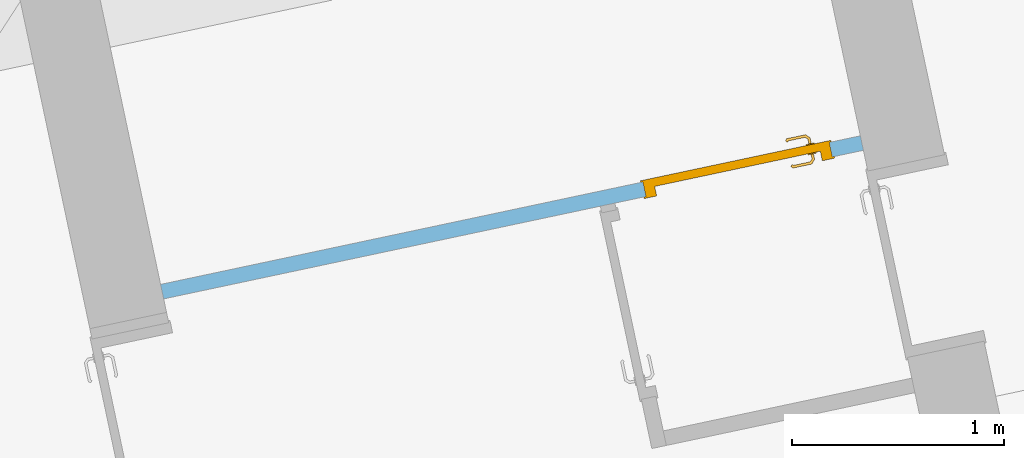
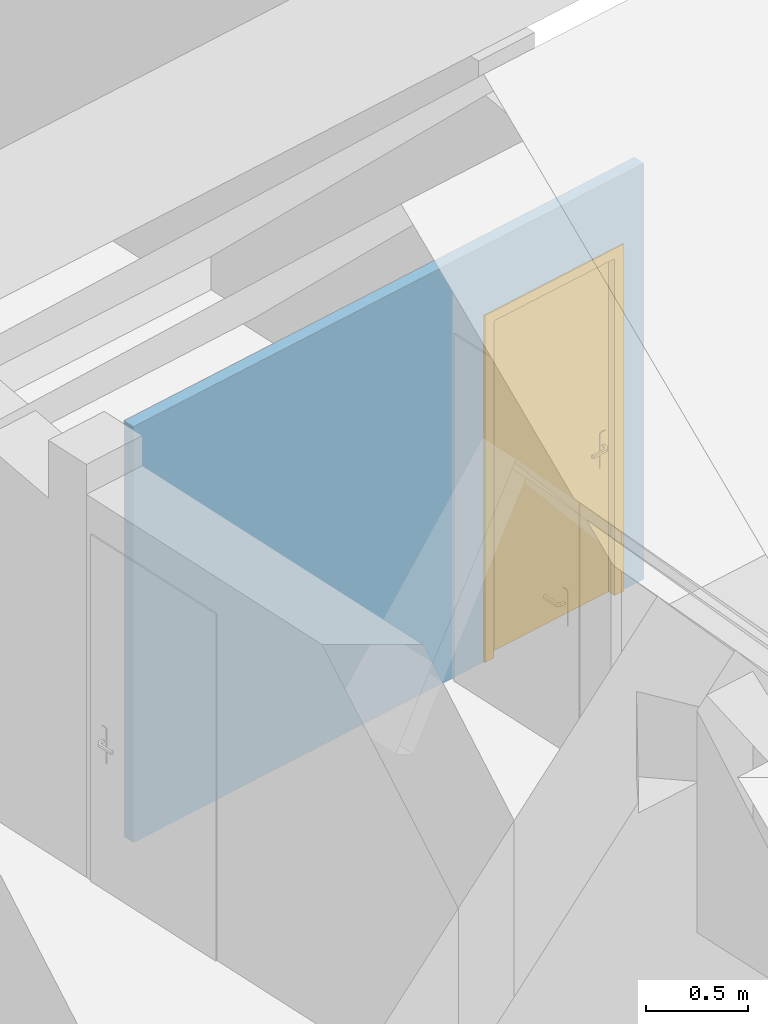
# One storey, part 7 of 10: 1 door, 1 opening, plus 1 element that does not belong to this part.
"""IFC2X3 building model written with IfcOpenShell, lengths in centimetres."""

from ifc_helpers import new_model, entity, si_unit, converted_unit, derived_unit, direction, frame, frame_2d, origin, place, context, subcontext, project, spatial, rectangle, extrude, faceted_brep, source, transform, mapped, material, layer, layer_set, layer_usage, type_object, type_shapes, element, fill, save


model = new_model("IFC2X3")

# Units and contexts
model_context = context("Model", 3, precision=0.001, world=origin(), true_north=direction((6.12303176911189e-17, 1.0)))
body_context = subcontext(model_context, "Body", "Model", "MODEL_VIEW")
ifc_project = project(units=[si_unit("LENGTHUNIT", "METRE", prefix="CENTI"), si_unit("AREAUNIT", "SQUARE_METRE"), si_unit("VOLUMEUNIT", "CUBIC_METRE"), converted_unit("PLANEANGLEUNIT", "DEGREE", entity("IfcRatioMeasure", 0.0174532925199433), si_unit("PLANEANGLEUNIT", "RADIAN"), dimensions=[0, 0, 0, 0, 0, 0, 0]), si_unit("MASSUNIT", "GRAM", prefix="KILO"), derived_unit("MASSDENSITYUNIT", [(si_unit("MASSUNIT", "GRAM", prefix="KILO"), 1), (si_unit("LENGTHUNIT", "METRE"), -3)]), derived_unit("IONCONCENTRATIONUNIT", [(si_unit("MASSUNIT", "GRAM", prefix="KILO"), 1), (si_unit("LENGTHUNIT", "METRE"), -3)]), derived_unit("MOMENTOFINERTIAUNIT", [(si_unit("LENGTHUNIT", "METRE"), 4)]), si_unit("TIMEUNIT", "SECOND"), si_unit("FREQUENCYUNIT", "HERTZ"), si_unit("THERMODYNAMICTEMPERATUREUNIT", "DEGREE_CELSIUS"), derived_unit("THERMALTRANSMITTANCEUNIT", [(si_unit("MASSUNIT", "GRAM", prefix="KILO"), 1), (si_unit("THERMODYNAMICTEMPERATUREUNIT", "KELVIN"), -1), (si_unit("TIMEUNIT", "SECOND"), -3)]), derived_unit("THERMALCONDUCTANCEUNIT", [(si_unit("MASSUNIT", "GRAM", prefix="KILO"), 1), (si_unit("THERMODYNAMICTEMPERATUREUNIT", "KELVIN"), -1), (si_unit("TIMEUNIT", "SECOND"), -3), (si_unit("LENGTHUNIT", "METRE"), 1)]), derived_unit("VOLUMETRICFLOWRATEUNIT", [(si_unit("LENGTHUNIT", "METRE"), 3), (si_unit("TIMEUNIT", "SECOND"), -1)]), derived_unit("MASSFLOWRATEUNIT", [(si_unit("MASSUNIT", "GRAM", prefix="KILO"), 1), (si_unit("TIMEUNIT", "SECOND"), -1)]), derived_unit("ROTATIONALFREQUENCYUNIT", [(si_unit("TIMEUNIT", "SECOND"), -1)]), si_unit("ELECTRICCURRENTUNIT", "AMPERE"), si_unit("ELECTRICVOLTAGEUNIT", "VOLT"), si_unit("POWERUNIT", "WATT"), si_unit("FORCEUNIT", "NEWTON", prefix="KILO"), si_unit("ILLUMINANCEUNIT", "LUX"), si_unit("LUMINOUSFLUXUNIT", "LUMEN"), si_unit("LUMINOUSINTENSITYUNIT", "CANDELA"), derived_unit("USERDEFINED", [(si_unit("MASSUNIT", "GRAM", prefix="KILO"), -1), (si_unit("LENGTHUNIT", "METRE"), -2), (si_unit("TIMEUNIT", "SECOND"), 3), (si_unit("LUMINOUSFLUXUNIT", "LUMEN"), 1)]), derived_unit("USERDEFINED", [(si_unit("MASSUNIT", "GRAM", prefix="KILO"), 1), (si_unit("TIMEUNIT", "SECOND"), -3), (si_unit("LENGTHUNIT", "METRE"), 3), (si_unit("ELECTRICCURRENTUNIT", "AMPERE"), -2)]), derived_unit("SOUNDPOWERUNIT", [(si_unit("MASSUNIT", "GRAM", prefix="KILO"), 1), (si_unit("TIMEUNIT", "SECOND"), -3), (si_unit("LENGTHUNIT", "METRE"), 2)]), derived_unit("SOUNDPRESSUREUNIT", [(si_unit("MASSUNIT", "GRAM", prefix="KILO"), 1), (si_unit("LENGTHUNIT", "METRE"), -1), (si_unit("TIMEUNIT", "SECOND"), -2)]), derived_unit("LINEARVELOCITYUNIT", [(si_unit("LENGTHUNIT", "METRE"), 1), (si_unit("TIMEUNIT", "SECOND"), -1)]), si_unit("PRESSUREUNIT", "PASCAL"), derived_unit("USERDEFINED", [(si_unit("MASSUNIT", "GRAM", prefix="KILO"), 1), (si_unit("LENGTHUNIT", "METRE"), -2), (si_unit("TIMEUNIT", "SECOND"), -2)]), derived_unit("LINEARFORCEUNIT", [(si_unit("MASSUNIT", "GRAM", prefix="KILO"), 1), (si_unit("TIMEUNIT", "SECOND"), -2)]), derived_unit("PLANARFORCEUNIT", [(si_unit("MASSUNIT", "GRAM", prefix="KILO"), 1), (si_unit("LENGTHUNIT", "METRE"), -1), (si_unit("TIMEUNIT", "SECOND"), -2)]), derived_unit("SPECIFICHEATCAPACITYUNIT", [(si_unit("THERMODYNAMICTEMPERATUREUNIT", "KELVIN"), -1), (si_unit("LENGTHUNIT", "METRE"), 2), (si_unit("TIMEUNIT", "SECOND"), -2)]), derived_unit("HEATINGVALUEUNIT", [(si_unit("LENGTHUNIT", "METRE"), 2), (si_unit("TIMEUNIT", "SECOND"), -2)]), derived_unit("VAPORPERMEABILITYUNIT", [(si_unit("LENGTHUNIT", "METRE"), -1), (si_unit("TIMEUNIT", "SECOND"), 1)]), derived_unit("DYNAMICVISCOSITYUNIT", [(si_unit("MASSUNIT", "GRAM", prefix="KILO"), 1), (si_unit("TIMEUNIT", "SECOND"), -1), (si_unit("LENGTHUNIT", "METRE"), -1)]), derived_unit("THERMALEXPANSIONCOEFFICIENTUNIT", [(si_unit("THERMODYNAMICTEMPERATUREUNIT", "KELVIN"), -1)]), derived_unit("MODULUSOFELASTICITYUNIT", [(si_unit("MASSUNIT", "GRAM", prefix="KILO"), 1), (si_unit("LENGTHUNIT", "METRE"), -1), (si_unit("TIMEUNIT", "SECOND"), -2)]), derived_unit("ISOTHERMALMOISTURECAPACITYUNIT", [(si_unit("LENGTHUNIT", "METRE"), 3), (si_unit("MASSUNIT", "GRAM", prefix="KILO"), -1)]), derived_unit("MOISTUREDIFFUSIVITYUNIT", [(si_unit("TIMEUNIT", "SECOND"), -1), (si_unit("LENGTHUNIT", "METRE"), 2)])], contexts=[model_context])

# Site, building, storey
site_placement = place(None, frame((14083.8920177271, -6853.25409548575, 6900.0), z_axis=(0.0, 0.0, 1.0), x_axis=(0.978188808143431, 0.207717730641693, 0.0)))
site = spatial("IfcSite", under=ifc_project, at=site_placement, Name="Surface", CompositionType="ELEMENT")
building_placement = place(site_placement, origin())
building = spatial("IfcBuilding", under=site, at=building_placement, CompositionType="ELEMENT")
storey_placement = place(building_placement, frame((0.0, 0.0, 289.0)))
storey = spatial("IfcBuildingStorey", under=building, at=storey_placement, Name="_R+1", CompositionType="ELEMENT", Elevation=289.0)

# Wall, opening, door
ifc_material_1 = material(Name="__ BA 13")
ifc_layer = layer(ifc_material_1, 7.0)
ifc_layer_set = layer_set([ifc_layer], Name="Mur de base:*Cloison 72/48 cm")
ifc_layer_usage = layer_usage(ifc_layer_set, "AXIS2", "NEGATIVE", 3.5)
wall_type = type_object("IfcWallType", Name="Mur de base:*Cloison 72/48 cm", PredefinedType="STANDARD", material=ifc_layer_set)
wall_placement = place(storey_placement, frame((-7501.79714756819, 15166.1724778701, 0.0)))
wall = element("IfcWallStandardCase", 1, at=wall_placement, inside=storey, type_object=wall_type, material=ifc_layer_usage, Name="Mur de base:*Cloison 72/48 cm", ObjectType="Mur de base:*Cloison 72/48 cm", context=body_context, shape_type="SweptSolid", body=[
    extrude(rectangle(XDim=337.842004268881, YDim=7.00000000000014, at=frame_2d((168.921002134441, -9.11493103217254e-13), x_axis=(1.0, 0.0))), origin(), (0.0, 0.0, 1.0), 250.0),
])
opening_placement = place(wall_placement, frame((232.842004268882, -3.50000000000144, 0.0)))
opening = element("IfcOpeningElement", 2, at=opening_placement, cuts=wall, Name="*Porte_alveolaire:Pp 83 x 204:1", ObjectType="Opening", context=body_context, shape_type="SweptSolid", body=[
    extrude(rectangle(XDim=207.5, YDim=89.9999999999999, at=frame_2d((103.75, 45.0000000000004), x_axis=(1.0, 0.0))), frame((0.0, 0.0, 0.0), z_axis=(0.0, 1.0, 0.0), x_axis=(0.0, 0.0, 1.0)), (0.0, 0.0, 1.0), 7.0),
])
ifc_material_2 = material(Name="<Unnamed>")
door_style = type_object("IfcDoorStyle", Name="*Porte_alveolaire:Pp 83 x 204", ConstructionType="NOTDEFINED", OperationType="NOTDEFINED", ParameterTakesPrecedence=False, Sizeable=False, material=ifc_material_2)
shared_shape = source(origin(), body_context, "Body", "Brep", [
    faceted_brep([(8.7974701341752, 3.69999999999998, 89.2219559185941), (9.20252986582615, 3.69999999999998, 89.221955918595), (9.60000000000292, 3.69999999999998, 89.3000000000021), (9.60000000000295, 3.69999999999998, 90.699999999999), (9.20252986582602, 3.69999999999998, 90.7780440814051), (8.79747013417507, 3.69999999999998, 90.7780440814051), (8.39999999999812, 3.69999999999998, 90.699999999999), (8.39999999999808, 3.69999999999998, 89.2999999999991), (9.60000000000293, 5.94852045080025, 89.3000000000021), (9.60000000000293, 5.94852045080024, 90.699999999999), (9.20252986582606, 6.11315797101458, 90.7780440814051), (10.5838906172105, 7.49451872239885, 90.7780440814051), (10.4161093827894, 7.8995784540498, 90.7780440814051), (8.7974701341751, 6.28093920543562, 90.7780440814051), (19.5684749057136, 6.84673156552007, 90.7780440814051), (19.8548953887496, 7.1331520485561, 90.7780440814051), (19.0884689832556, 7.8995784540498, 90.7780440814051), (18.9206877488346, 7.49451872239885, 90.7780440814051), (8.39999999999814, 6.44557672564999, 90.699999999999), (8.39999999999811, 6.44557672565, 89.2999999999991), (8.7974701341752, 6.28093920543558, 89.2219559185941), (10.4161093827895, 7.89957845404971, 89.2219559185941), (10.5838906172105, 7.49451872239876, 89.221955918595), (9.20252986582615, 6.11315797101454, 89.221955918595), (19.8548953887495, 7.13315204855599, 89.221955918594), (19.5684749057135, 6.84673156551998, 89.221955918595), (18.9206877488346, 7.49451872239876, 89.221955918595), (19.0884689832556, 7.89957845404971, 89.221955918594), (10.7485281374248, 7.09704858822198, 89.3000000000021), (10.7485281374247, 7.09704858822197, 90.699999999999), (10.2514718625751, 8.29704858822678, 90.699999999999), (10.2514718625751, 8.2970485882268, 89.2999999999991), (14.7522879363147, 7.09704858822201, 89.300000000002), (18.7560502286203, 7.09704858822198, 89.300000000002), (18.7560502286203, 7.09704858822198, 90.699999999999), (14.7522891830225, 7.09704858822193, 90.699999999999), (14.7522891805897, 7.71249275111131, 90.7878116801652), (19.25310650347, 8.29704858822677, 90.699999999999), (15.2600577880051, 8.29704858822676, 90.699999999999), (19.25310650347, 8.2970485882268, 89.2999999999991), (14.2445205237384, 8.29704858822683, 89.2999999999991), (14.7522892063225, 7.7124927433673, 89.2121883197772), (19.287421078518, 6.56567773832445, 89.300000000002), (20.1359492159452, 7.41420587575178, 89.2999999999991), (20.1359492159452, 7.41420587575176, 90.699999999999), (19.287421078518, 6.56567773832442, 90.699999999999)], [[[0, 1, 2, 3, 4, 5, 6, 7]], [[3, 2, 8, 9]], [[9, 10, 4, 3]], [[10, 11, 12, 13, 5, 4]], [[14, 15, 16, 17]], [[13, 18, 6, 5]], [[7, 6, 18, 19]], [[19, 20, 0, 7]], [[20, 21, 22, 23, 1, 0]], [[24, 25, 26, 27]], [[23, 8, 2, 1]], [[9, 8, 28, 29]], [[29, 11, 10, 9]], [[12, 30, 18, 13]], [[19, 18, 30, 31]], [[31, 21, 20, 19]], [[22, 28, 8, 23]], [[28, 32, 33, 34, 35, 29]], [[11, 35, 36]], [[16, 37, 38]], [[30, 12, 38]], [[38, 12, 36]], [[36, 35, 17]], [[17, 16, 36]], [[35, 11, 29]], [[34, 17, 35]], [[11, 36, 12]], [[38, 36, 16]], [[31, 30, 38, 37, 39, 40]], [[40, 41, 21]], [[41, 40, 27]], [[21, 31, 40]], [[39, 27, 40]], [[41, 32, 22]], [[22, 21, 41]], [[26, 32, 41]], [[28, 22, 32]], [[32, 26, 33]], [[26, 41, 27]], [[42, 25, 24, 43, 44, 15, 14, 45]], [[34, 33, 42, 45]], [[45, 14, 17, 34]], [[15, 44, 37, 16]], [[39, 37, 44, 43]], [[43, 24, 27, 39]], [[25, 42, 33, 26]]]),
    faceted_brep([(8.79747013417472, -1.30000000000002, 90.7780440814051), (9.20252986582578, -1.30000000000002, 90.7780440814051), (9.60000000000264, -1.30000000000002, 90.6999999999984), (9.60000000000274, -1.30000000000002, 89.3000000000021), (9.20252986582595, -1.30000000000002, 89.221955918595), (8.79747013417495, -1.30000000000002, 89.221955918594), (8.39999999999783, -1.30000000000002, 89.2999999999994), (8.39999999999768, -1.30000000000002, 90.699999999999), (8.39999999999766, -4.06509507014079, 90.6999999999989), (8.79747013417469, -3.9004575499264, 90.7780440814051), (10.402358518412, -5.50534593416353, 90.7780440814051), (10.570139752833, -5.10028620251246, 90.7780440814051), (9.20252986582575, -3.73267631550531, 90.7780440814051), (19.852181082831, -4.73891952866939, 90.778044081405), (19.5657605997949, -4.45249904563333, 90.778044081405), (18.9179734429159, -5.10028620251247, 90.778044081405), (19.085754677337, -5.50534593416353, 90.778044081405), (9.60000000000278, -3.56803879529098, 90.699999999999), (9.60000000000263, -3.56803879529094, 89.3000000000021), (9.20252986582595, -3.73267631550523, 89.221955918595), (10.5701397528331, -5.10028620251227, 89.221955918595), (10.4023585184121, -5.50534593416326, 89.221955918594), (8.79747013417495, -3.90045754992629, 89.221955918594), (19.5657605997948, -4.45249904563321, 89.221955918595), (19.8521810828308, -4.73891952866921, 89.221955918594), (19.0857546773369, -5.50534593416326, 89.221955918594), (18.9179734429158, -5.10028620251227, 89.221955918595), (8.39999999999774, -4.06509507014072, 89.2999999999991), (10.2377209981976, -5.90281606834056, 90.6999999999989), (10.7347772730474, -4.70281606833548, 90.699999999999), (10.7347772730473, -4.70281606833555, 89.3000000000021), (10.2377209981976, -5.90281606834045, 89.2999999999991), (14.2307697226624, -5.90281606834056, 90.6999999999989), (14.7440566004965, -5.31828027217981, 90.7878115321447), (19.2503921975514, -5.90281606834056, 90.6999999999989), (14.7440565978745, -4.70281606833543, 90.699999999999), (18.7533359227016, -4.70281606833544, 90.6999999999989), (18.7533359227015, -4.70281606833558, 89.300000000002), (14.7440563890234, -4.70281606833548, 89.3000000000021), (14.7440565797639, -5.31828027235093, 89.2121884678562), (19.2503921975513, -5.90281606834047, 89.2999999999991), (15.2573436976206, -5.90281606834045, 89.2999999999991), (19.2847067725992, -4.17144521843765, 90.6999999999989), (20.1332349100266, -5.01997335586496, 90.6999999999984), (20.1332349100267, -5.019973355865, 89.2999999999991), (19.2847067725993, -4.17144521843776, 89.3000000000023)], [[[0, 1, 2, 3, 4, 5, 6, 7]], [[8, 9, 0, 7]], [[9, 10, 11, 12, 1, 0]], [[13, 14, 15, 16]], [[12, 17, 2, 1]], [[3, 2, 17, 18]], [[18, 19, 4, 3]], [[19, 20, 21, 22, 5, 4]], [[23, 24, 25, 26]], [[22, 27, 6, 5]], [[7, 6, 27, 8]], [[28, 10, 9, 8]], [[11, 29, 17, 12]], [[18, 17, 29, 30]], [[30, 20, 19, 18]], [[21, 31, 27, 22]], [[8, 27, 31, 28]], [[32, 33, 10]], [[33, 32, 16]], [[10, 28, 32]], [[34, 16, 32]], [[33, 35, 11]], [[11, 10, 33]], [[15, 35, 33]], [[29, 11, 35]], [[35, 15, 36]], [[15, 33, 16]], [[30, 29, 35, 36, 37, 38]], [[20, 38, 39]], [[25, 40, 41]], [[31, 21, 41]], [[41, 21, 39]], [[39, 38, 26]], [[26, 25, 39]], [[38, 20, 30]], [[37, 26, 38]], [[20, 39, 21]], [[41, 39, 25]], [[28, 31, 41, 40, 34, 32]], [[42, 14, 13, 43, 44, 24, 23, 45]], [[43, 13, 16, 34]], [[14, 42, 36, 15]], [[37, 36, 42, 45]], [[45, 23, 26, 37]], [[24, 44, 40, 25]], [[34, 40, 44, 43]]]),
    faceted_brep([(10.03527618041, 3.19999999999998, 76.6003983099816), (11.0, 3.19999999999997, 77.0), (11.0, 3.19999999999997, 98.0), (10.03527618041, 3.19999999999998, 98.3996016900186), (9.0, 3.19999999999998, 98.5358983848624), (7.96472381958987, 3.19999999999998, 98.3996016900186), (7.0, 3.19999999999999, 98.0), (7.0, 3.19999999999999, 77.0), (7.96472381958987, 3.19999999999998, 76.6003983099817), (9.0, 3.19999999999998, 76.4641016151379), (10.03527618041, 3.69999999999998, 98.3996016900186), (11.0, 3.69999999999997, 98.0), (11.0, 3.69999999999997, 77.0), (10.03527618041, 3.69999999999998, 76.6003983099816), (9.0, 3.69999999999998, 76.4641016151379), (7.96472381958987, 3.69999999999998, 76.6003983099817), (7.0, 3.69999999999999, 77.0), (7.0, 3.69999999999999, 98.0), (7.96472381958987, 3.69999999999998, 98.3996016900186), (9.0, 3.69999999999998, 98.5358983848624)], [[[0, 1, 2, 3, 4, 5, 6, 7, 8, 9]], [[10, 11, 12, 13, 14, 15, 16, 17, 18, 19]], [[11, 10, 3, 2]], [[3, 10, 19, 4]], [[19, 18, 5, 4]], [[18, 17, 6, 5]], [[7, 6, 17, 16]], [[16, 15, 8, 7]], [[8, 15, 14, 9]], [[14, 13, 0, 9]], [[13, 12, 1, 0]], [[2, 1, 12, 11]]]),
    faceted_brep([(10.03527618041, -1.30000000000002, 76.6003983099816), (11.0, -1.30000000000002, 77.0), (11.0, -1.30000000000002, 98.0), (10.03527618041, -1.30000000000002, 98.3996016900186), (9.0, -1.30000000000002, 98.5358983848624), (7.96472381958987, -1.30000000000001, 98.3996016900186), (7.0, -1.30000000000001, 98.0), (7.0, -1.30000000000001, 77.0), (7.96472381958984, -1.30000000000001, 76.6003983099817), (9.0, -1.30000000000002, 76.4641016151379), (10.03527618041, -0.800000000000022, 98.3996016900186), (11.0, -0.800000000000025, 98.0), (11.0, -0.800000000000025, 77.0), (10.03527618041, -0.800000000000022, 76.6003983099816), (9.0, -0.800000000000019, 76.4641016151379), (7.96472381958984, -0.800000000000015, 76.6003983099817), (7.0, -0.800000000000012, 77.0), (7.0, -0.800000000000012, 98.0), (7.96472381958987, -0.800000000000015, 98.3996016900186), (9.0, -0.800000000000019, 98.5358983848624)], [[[0, 1, 2, 3, 4, 5, 6, 7, 8, 9]], [[10, 11, 12, 13, 14, 15, 16, 17, 18, 19]], [[16, 15, 8, 7]], [[8, 15, 14, 9]], [[14, 13, 0, 9]], [[13, 12, 1, 0]], [[2, 1, 12, 11]], [[11, 10, 3, 2]], [[3, 10, 19, 4]], [[19, 18, 5, 4]], [[18, 17, 6, 5]], [[7, 6, 17, 16]]]),
    faceted_brep([(0.0, 0.0, 0.0), (0.0, 7.0, 0.0), (-1.0, 7.0, 0.0), (-1.0, 7.80000000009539, 0.0), (5.0, 7.80000000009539, 0.0), (5.0, 3.2, 0.0), (3.49999999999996, 3.2, 0.0), (3.49999999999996, -0.8, 0.0), (-1.0, -0.8, 0.0), (-1.0, 0.0, 0.0), (0.0, 0.0, 207.5), (0.0, 7.0, 207.5), (90.0, 7.0, 207.5), (90.0, 7.0, 0.0), (91.0, 7.0, 0.0), (91.0, 7.0, 208.5), (-1.0, 7.0, 208.5), (-1.0, 7.80000000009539, 208.5), (91.0, 7.80000000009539, 208.5), (91.0, 7.80000000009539, 0.0), (85.0, 7.80000000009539, 0.0), (85.0, 7.80000000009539, 202.500000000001), (5.0, 7.80000000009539, 202.500000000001), (5.0, 3.2, 202.500000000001), (85.0, 3.2, 202.500000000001), (85.0, 3.2, 0.0), (86.5, 3.2, 0.0), (86.5, 3.2, 204.0), (3.49999999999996, 3.2, 204.0), (3.49999999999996, -0.8, 204.0), (86.5, -0.8, 204.0), (86.5, -0.8, 0.0), (91.0, -0.8, 0.0), (91.0, -0.8, 208.5), (-1.0, -0.8, 208.5), (-1.0, 0.0, 208.5), (91.0, 0.0, 208.5), (91.0, 0.0, 0.0), (90.0, 0.0, 0.0), (90.0, 0.0, 207.5)], [[[0, 1, 2, 3, 4, 5, 6, 7, 8, 9]], [[1, 0, 10, 11]], [[2, 1, 11, 12, 13, 14, 15, 16]], [[3, 2, 16, 17]], [[4, 3, 17, 18, 19, 20, 21, 22]], [[5, 4, 22, 23]], [[6, 5, 23, 24, 25, 26, 27, 28]], [[7, 6, 28, 29]], [[8, 7, 29, 30, 31, 32, 33, 34]], [[9, 8, 34, 35]], [[0, 9, 35, 36, 37, 38, 39, 10]], [[12, 39, 38, 13]], [[38, 37, 32, 31, 26, 25, 20, 19, 14, 13]], [[18, 15, 14, 19]], [[24, 21, 20, 25]], [[30, 27, 26, 31]], [[36, 33, 32, 37]], [[11, 10, 39, 12]], [[17, 16, 15, 18]], [[23, 22, 21, 24]], [[29, 28, 27, 30]], [[35, 34, 33, 36]]]),
    faceted_brep([(3.49999999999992, -0.800000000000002, 204.0), (3.49999999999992, -0.800000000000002, 0.0), (86.5, -0.800000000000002, 0.0), (86.5, -0.800000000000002, 204.0), (3.49999999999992, 3.2, 204.0), (86.5, 3.2, 204.0), (86.5, 3.2, 0.0), (3.49999999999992, 3.2, 0.0)], [[[0, 1, 2, 3]], [[4, 5, 6, 7]], [[1, 0, 4, 7]], [[2, 1, 7, 6]], [[3, 2, 6, 5]], [[0, 3, 5, 4]]]),
])
type_shapes(door_style, [shared_shape])
door_placement = place(opening_placement, frame((90.0, 7.0, 0.0), z_axis=(0.0, 0.0, 1.0), x_axis=(-1.0, 0.0, 0.0)))
door = element("IfcDoor", 3, at=door_placement, inside=storey, type_object=door_style, material=ifc_material_2, Name="*Porte_alveolaire:Pp 83 x 204", ObjectType="*Porte_alveolaire:Pp 83 x 204", OverallHeight=207.5, OverallWidth=90.0000000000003, context=body_context, shape_type="MappedRepresentation", body=[
    mapped(shared_shape, transform((0.0, 0.0, 0.0), scale=1.0)),
])
fill(opening, door)

save(model, "model.ifc")
